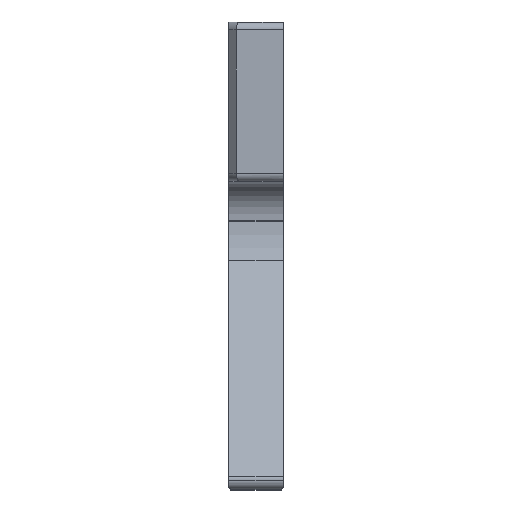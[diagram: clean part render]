
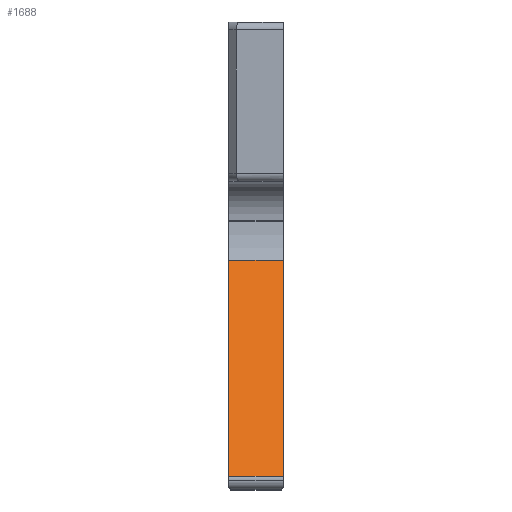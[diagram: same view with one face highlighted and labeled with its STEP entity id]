
A CAD part, top view. The second image highlights one B-rep face of the part: STEP entity #1688.
In plain terms, the highlighted planar face has unit normal (0, 0.45, 0.893).
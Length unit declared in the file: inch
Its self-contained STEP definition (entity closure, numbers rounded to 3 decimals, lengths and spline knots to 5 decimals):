
#36 = CARTESIAN_POINT ( 'NONE',  ( 0., 1.19837, 5.12456 ) ) ;
#142 = CARTESIAN_POINT ( 'NONE',  ( 0.70866, -1.76693, 6.619 ) ) ;
#395 = EDGE_CURVE ( 'NONE', #4059, #2162, #396, .T. ) ;
#396 = LINE ( 'NONE', #36, #2527 ) ;
#1151 = CARTESIAN_POINT ( 'NONE',  ( 0.70866, -1.59566, 6.53269 ) ) ;
#1249 = VECTOR ( 'NONE', #3899, 39.37008 ) ;
#1286 = CARTESIAN_POINT ( 'NONE',  ( 0., -1.76693, 6.619 ) ) ;
#1603 = LINE ( 'NONE', #2512, #3997 ) ;
#1639 = EDGE_CURVE ( 'NONE', #4059, #4272, #1603, .T. ) ;
#1688 = ADVANCED_FACE ( 'NONE', ( #3526 ), #2859, .F. ) ;
#2162 = VERTEX_POINT ( 'NONE', #4250 ) ;
#2363 = EDGE_CURVE ( 'NONE', #2162, #2533, #2366, .T. ) ;
#2366 = LINE ( 'NONE', #1286, #3181 ) ;
#2458 = CARTESIAN_POINT ( 'NONE',  ( 0.70866, -1.59566, 6.53269 ) ) ;
#2512 = CARTESIAN_POINT ( 'NONE',  ( 0.70866, -1.76693, 6.619 ) ) ;
#2527 = VECTOR ( 'NONE', #2802, 39.37008 ) ;
#2533 = VERTEX_POINT ( 'NONE', #4130 ) ;
#2547 = DIRECTION ( 'NONE',  ( 0., -0.893, 0.45 ) ) ;
#2759 = AXIS2_PLACEMENT_3D ( 'NONE', #142, #4302, #3240 ) ;
#2802 = DIRECTION ( 'NONE',  ( -1., 0., 0. ) ) ;
#2823 = ORIENTED_EDGE ( 'NONE', *, *, #1639, .F. ) ;
#2829 = ORIENTED_EDGE ( 'NONE', *, *, #3931, .T. ) ;
#2859 = PLANE ( 'NONE',  #2759 ) ;
#3031 = DIRECTION ( 'NONE',  ( 0., -0.893, 0.45 ) ) ;
#3181 = VECTOR ( 'NONE', #3031, 39.37008 ) ;
#3240 = DIRECTION ( 'NONE',  ( 0., 0.893, -0.45 ) ) ;
#3526 = FACE_OUTER_BOUND ( 'NONE', #3661, .T. ) ;
#3661 = EDGE_LOOP ( 'NONE', ( #4320, #2829, #2823, #4090 ) ) ;
#3899 = DIRECTION ( 'NONE',  ( 1., 0., 0. ) ) ;
#3931 = EDGE_CURVE ( 'NONE', #2533, #4272, #4202, .T. ) ;
#3997 = VECTOR ( 'NONE', #2547, 39.37008 ) ;
#4059 = VERTEX_POINT ( 'NONE', #4395 ) ;
#4090 = ORIENTED_EDGE ( 'NONE', *, *, #395, .T. ) ;
#4130 = CARTESIAN_POINT ( 'NONE',  ( 0., -1.59566, 6.53269 ) ) ;
#4202 = LINE ( 'NONE', #1151, #1249 ) ;
#4250 = CARTESIAN_POINT ( 'NONE',  ( 0., 1.19837, 5.12456 ) ) ;
#4272 = VERTEX_POINT ( 'NONE', #2458 ) ;
#4302 = DIRECTION ( 'NONE',  ( 0., -0.45, -0.893 ) ) ;
#4320 = ORIENTED_EDGE ( 'NONE', *, *, #2363, .T. ) ;
#4395 = CARTESIAN_POINT ( 'NONE',  ( 0.70866, 1.19837, 5.12456 ) ) ;
